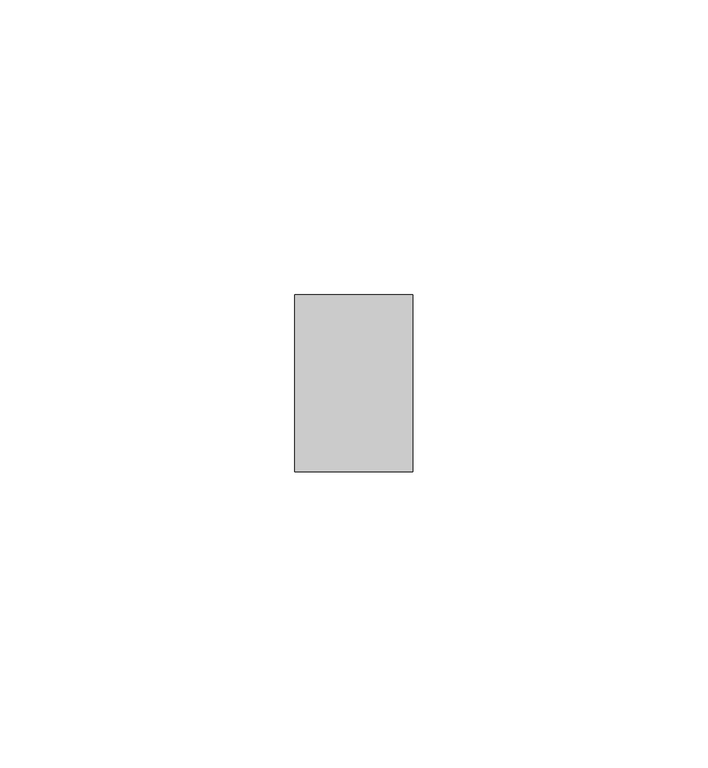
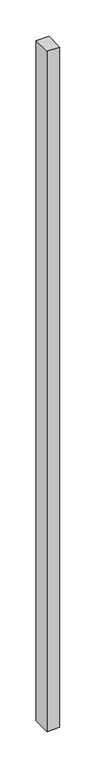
"""IFC4 building model written with IfcOpenShell, lengths in millimetres: member geometry, Прямоугольный импост : Квадрат 10 мм - Зазор между навесными плитами."""

from ifc_helpers import new_model, si_unit, frame, origin, place, context, project, spatial, polyline, outline, extrude, source, transform, mapped, element, save


def member_78d295d7(model_context):
    return source(origin(), model_context, "Body", "SweptSolid", [
        extrude(outline(polyline([(10.0, 15.0), (10.0, -15.0), (-10.0, -15.0), (-10.0, 15.0), (10.0, 15.0)])), frame((0.0, 0.0, -1140.640473), z_axis=(0.0, 0.0, 1.0), x_axis=(1.0, 0.0, 0.0)), (0.0, 0.0, 1.0), 1140.640473),
    ])


if __name__ == "__main__":
    model = new_model("IFC4")
    model_context = context("Model", 3, world=origin())
    ifc_project = project(units=[si_unit("LENGTHUNIT", "METRE", prefix="MILLI")], contexts=[model_context])
    site = spatial("IfcSite", under=ifc_project)
    building = spatial("IfcBuilding", under=site)
    placement = place(None, origin())
    member_shape = member_78d295d7(model_context)
    element("IfcMember", 1, ObjectType="Прямоугольный импост : Квадрат 10 мм - Зазор между навесными плитами", at=placement, inside=building, context=model_context, shape_type="MappedRepresentation", body=[
        mapped(member_shape, transform((0.0, 0.0, 0.0), x_axis=(1.0, 0.0, 0.0), y_axis=(0.0, 1.0, 0.0), z_axis=(0.0, 0.0, 1.0))),
    ])
    save(model, "model.ifc")
